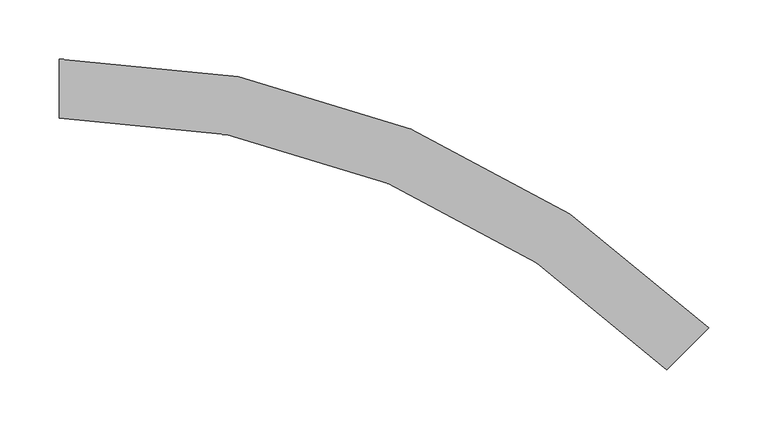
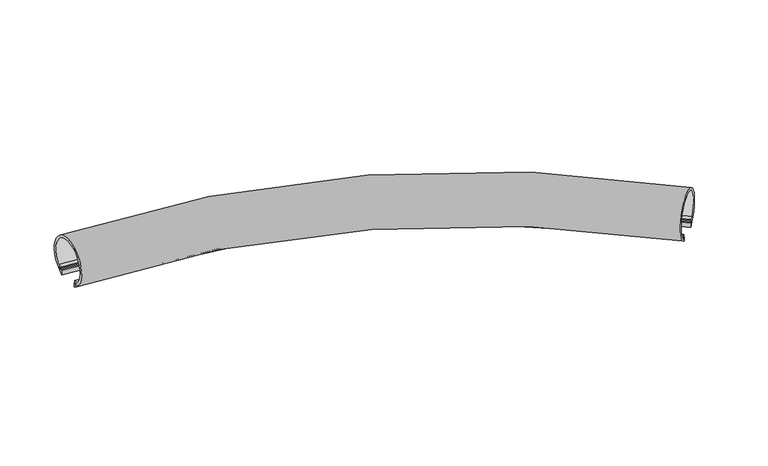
"""IFC4 building model written with IfcOpenShell, lengths in millimetres: light fixture geometry, ARTEMIDE-AoL-System-Curved_Suspended_US : Suspended_Curved 45°-750mm 1118lm 3500K."""

import ifcopenshell
import ifcopenshell.guid

model = None  # the IFC model being written
_history = None  # IfcOwnerHistory: only IFC2X3 demands one
_inside = {}  # id of a spatial element -> (the spatial element, [elements in it])
_under = {}  # id of a project, library or spatial element -> (it, [spatial elements below it])
_declared = {}  # id of a project -> (the project, [libraries it declares])
_typed = {}  # id of a type object -> (the type object, [elements of that type])
_made_of = {}  # id of a material, layer set ... -> (it, [elements and type objects made of it])


def new_model(schema):
    """Start an empty IFC model of exactly this schema.

    Asked for "IFC4X3", IfcOpenShell would pick the latest addendum, in which some entities
    have other attributes; the version numbers below select the first issue.
    IFC2X3 requires an IfcOwnerHistory on every rooted entity: one is made here for all.
    """
    global model, _history
    if schema == "IFC4X3":
        model = ifcopenshell.file(schema_version=(4, 3, 0, 0))
    else:
        model = ifcopenshell.file(schema=schema)
    _inside.clear()
    _under.clear()
    _declared.clear()
    _typed.clear()
    _made_of.clear()
    _history = None
    if model.schema == "IFC2X3":
        org = make("IfcOrganization", Name="unknown")
        user = make(
            "IfcPersonAndOrganization",
            ThePerson=make("IfcPerson", FamilyName="unknown"),
            TheOrganization=org,
        )
        app = make(
            "IfcApplication",
            ApplicationDeveloper=org,
            Version="unknown",
            ApplicationFullName="unknown",
            ApplicationIdentifier="unknown",
        )
        _history = make(
            "IfcOwnerHistory",
            OwningUser=user,
            OwningApplication=app,
            ChangeAction="ADDED",
            CreationDate=0,
        )
    return model


def make(cls, **values):
    """One entity of the class cls with the attributes given. An attribute that is None is left unset."""
    return model.create_entity(
        cls, **{name: value for name, value in values.items() if value is not None}
    )


def rooted(cls, **values):
    """An entity with a GlobalId (a new one), such as an element, a storey or a relation."""
    return make(cls, GlobalId=ifcopenshell.guid.new(), OwnerHistory=_history, **values)


def si_unit(unit_type, name, prefix=None):
    """IfcSIUnit, for example si_unit("LENGTHUNIT", "METRE", prefix="MILLI")."""
    return make("IfcSIUnit", UnitType=unit_type, Prefix=prefix, Name=name)


def assignment(units):
    """IfcUnitAssignment: the units of a project."""
    return None if units is None else make("IfcUnitAssignment", Units=units)


def point(xyz):
    """IfcCartesianPoint."""
    return None if xyz is None else make("IfcCartesianPoint", Coordinates=xyz)


def direction(xyz):
    """IfcDirection."""
    return None if xyz is None else make("IfcDirection", DirectionRatios=xyz)


def frame(location, z_axis=None, x_axis=None):
    """IfcAxis2Placement3D, a coordinate frame: its origin and axes. An axis left out is left unset."""
    return make(
        "IfcAxis2Placement3D",
        Location=point(location),
        Axis=direction(z_axis),
        RefDirection=direction(x_axis),
    )


def origin():
    """The frame at (0, 0, 0) with its axes left unset."""
    return frame((0.0, 0.0, 0.0))


def place(relative_to, where):
    """IfcLocalPlacement: puts the frame where relative to a parent placement (None: the world)."""
    return make(
        "IfcLocalPlacement", PlacementRelTo=relative_to, RelativePlacement=where
    )


def context(
    kind, dimensions, precision=None, world=None, true_north=None, identifier=None
):
    """IfcGeometricRepresentationContext, for example the 3D "Model" context."""
    return make(
        "IfcGeometricRepresentationContext",
        ContextIdentifier=identifier,
        ContextType=kind,
        CoordinateSpaceDimension=dimensions,
        Precision=precision,
        WorldCoordinateSystem=world,
        TrueNorth=true_north,
    )


def project(units=None, contexts=None):
    """IfcProject with its units and contexts."""
    return rooted(
        "IfcProject",
        Name="project",
        RepresentationContexts=contexts,
        UnitsInContext=assignment(units),
    )


def spatial(cls, under=None, at=None, **own):
    """A site, building, storey or space (cls), placed at a placement, below another one or the project."""
    s = rooted(cls, ObjectPlacement=at, **own)
    if under is not None:
        _under.setdefault(under.id(), (under, []))[1].append(s)
    return s


def polyline(points):
    """IfcPolyline through the points."""
    return make("IfcPolyline", Points=[point(p) for p in points])


def circle_curve(where, radius):
    """IfcCircle in the frame where."""
    return make("IfcCircle", Position=where, Radius=radius)


def ellipse_curve(where, semi_axis1, semi_axis2):
    """IfcEllipse in the frame where."""
    return make(
        "IfcEllipse", Position=where, SemiAxis1=semi_axis1, SemiAxis2=semi_axis2
    )


def trimmed(basis, trim1, trim2, sense, master):
    """IfcTrimmedCurve: the piece of a basis curve between two trims."""
    return make(
        "IfcTrimmedCurve",
        BasisCurve=basis,
        Trim1=trim1,
        Trim2=trim2,
        SenseAgreement=sense,
        MasterRepresentation=master,
    )


def shape(context_of_items, identifier, shape_type, items):
    """IfcShapeRepresentation: the items that make up one representation, for example the "Body"."""
    return make(
        "IfcShapeRepresentation",
        ContextOfItems=context_of_items,
        RepresentationIdentifier=identifier,
        RepresentationType=shape_type,
        Items=items,
    )


def source(mapping_origin, context_of_items, identifier, shape_type, items):
    """IfcRepresentationMap: a shape defined once, which mapped items show again and again."""
    return make(
        "IfcRepresentationMap",
        MappingOrigin=mapping_origin,
        MappedRepresentation=shape(context_of_items, identifier, shape_type, items),
    )


def transform(
    local_origin,
    x_axis=None,
    y_axis=None,
    z_axis=None,
    scale=None,
    scale2=None,
    scale3=None,
    uniform=True,
):
    """IfcCartesianTransformationOperator3D, or its non-uniform kind. x_axis, y_axis, z_axis: its Axis1, 2, 3."""
    if uniform:
        return make(
            "IfcCartesianTransformationOperator3D",
            Axis1=direction(x_axis),
            Axis2=direction(y_axis),
            LocalOrigin=point(local_origin),
            Scale=scale,
            Axis3=direction(z_axis),
        )
    return make(
        "IfcCartesianTransformationOperator3DnonUniform",
        Axis1=direction(x_axis),
        Axis2=direction(y_axis),
        LocalOrigin=point(local_origin),
        Scale=scale,
        Axis3=direction(z_axis),
        Scale2=scale2,
        Scale3=scale3,
    )


def mapped(mapping_source, mapping_target):
    """IfcMappedItem: shows the shape of a source again, moved by a transform."""
    return make(
        "IfcMappedItem", MappingSource=mapping_source, MappingTarget=mapping_target
    )


def made_of(thing, what):
    """Note that an element or type object is made of a material, layer set ...; save() writes the relation."""
    if what is not None:
        _made_of.setdefault(what.id(), (what, []))[1].append(thing)
    return thing


def element(
    cls,
    number,
    at=None,
    inside=None,
    cuts=None,
    type_object=None,
    material=None,
    context=None,
    identifier="Body",
    shape_type=None,
    held_by="IfcProductDefinitionShape",
    body=None,
    shapes=None,
    **own,
):
    """One element of the class cls, such as IfcWall. Its Tag is "e" and its number.

    at: its placement. inside: the storey or other place that contains it. cuts: it is an
    opening in that element (IfcRelVoidsElement). A single representation is given by context,
    identifier, shape_type and body (its items); several are given by shapes. held_by: the class
    of the entity that holds the representations. save() writes the other relations.
    """
    e = rooted(cls, Tag="e%d" % number, ObjectPlacement=at, **own)
    if body is not None:
        shapes = [shape(context, identifier, shape_type, body)]
    if shapes is not None:
        e.Representation = make(held_by, Representations=shapes)
    if inside is not None:
        _inside.setdefault(inside.id(), (inside, []))[1].append(e)
    if cuts is not None:
        rooted(
            "IfcRelVoidsElement", RelatingBuildingElement=cuts, RelatedOpeningElement=e
        )
    if type_object is not None:
        _typed.setdefault(type_object.id(), (type_object, []))[1].append(e)
    return made_of(e, material)


def aggregate(whole, parts):
    """IfcRelAggregates: a whole, such as a stair, and the parts it consists of."""
    return rooted("IfcRelAggregates", RelatingObject=whole, RelatedObjects=parts)


def save(model, path):
    """Write the relations noted so far, then the file.

    IfcRelAggregates (storeys below a building ...), IfcRelContainedInSpatialStructure (elements
    in a storey), IfcRelDefinesByType, IfcRelAssociatesMaterial and IfcRelDeclares: one each for
    every whole, place, type object, material and project.
    """
    for whole, parts in _under.values():
        aggregate(whole, parts)
    for where, things in _inside.values():
        rooted(
            "IfcRelContainedInSpatialStructure",
            RelatedElements=things,
            RelatingStructure=where,
        )
    for kind, things in _typed.values():
        rooted("IfcRelDefinesByType", RelatedObjects=things, RelatingType=kind)
    for what, things in _made_of.values():
        rooted("IfcRelAssociatesMaterial", RelatedObjects=things, RelatingMaterial=what)
    for by, libraries in _declared.values():
        rooted("IfcRelDeclares", RelatingContext=by, RelatedDefinitions=libraries)
    model.write(path)


def plane_surface(at):
    """IfcPlane: the flat surface through the origin of the frame at, square to its z axis."""
    return make("IfcPlane", Position=at)


def cylinder_surface(at, radius):
    """IfcCylindricalSurface: all points at the distance radius from the z axis of the frame at."""
    return make("IfcCylindricalSurface", Position=at, Radius=radius)


def revolved_surface(curve, axis_point, axis_direction):
    """IfcSurfaceOfRevolution: the curve turned about the line through axis_point along axis_direction."""
    return make(
        "IfcSurfaceOfRevolution",
        SweptCurve=make("IfcArbitraryOpenProfileDef", ProfileType="CURVE", Curve=curve),
        AxisPosition=make("IfcAxis1Placement", Location=point(axis_point), Axis=direction(axis_direction)),
    )


def advanced_brep(points, edges, surfaces, faces):
    """IfcAdvancedBrep: a solid bounded by faces that lie on surfaces and meet in shared edges.

    An edge is (start, end): straight between two places in points (the first is 0);
    or (start, end, curve); or (start, end, curve, False) where it runs against its curve.
    A face is (place in surfaces, loops), or (place, loops, False) where it looks against
    its surface's normal. A loop lists edges by number (the first is 1), with a minus sign
    where the edge is run from its end to its start. The first loop is the outer one.
    """
    corners = [point(p) for p in points]
    vertices = [make("IfcVertexPoint", VertexGeometry=c) for c in corners]
    made = []
    for start, end, *more in edges:
        made.append(
            make(
                "IfcEdgeCurve",
                EdgeStart=vertices[start],
                EdgeEnd=vertices[end],
                EdgeGeometry=more[0] if more else make("IfcPolyline", Points=[corners[start], corners[end]]),
                SameSense=more[1] if len(more) > 1 else True,
            )
        )
    hull = []
    for where, loops, *sense in faces:
        bounds = []
        for j, loop in enumerate(loops):
            ring = [make("IfcOrientedEdge", EdgeElement=made[abs(k) - 1], Orientation=k > 0) for k in loop]
            bounds.append(
                make(
                    "IfcFaceOuterBound" if j == 0 else "IfcFaceBound",
                    Bound=make("IfcEdgeLoop", EdgeList=ring),
                    Orientation=True,
                )
            )
        hull.append(make("IfcAdvancedFace", Bounds=bounds, FaceSurface=surfaces[where], SameSense=sense[0] if sense else True))
    return make("IfcAdvancedBrep", Outer=make("IfcClosedShell", CfsFaces=hull))


def light_fixture_747e397c(model_context):
    return source(origin(), model_context, "Body", "AdvancedBrep", [
        advanced_brep(
        [(499.4162398, -175.4873356, 502.6676119), (499.4162398, -175.4873356, 507.259212), (501.0111252, -173.6526299, 507.259212), (501.0111252, -173.6526299, 509.244074), (500.3550661, -174.4073395, 509.244074), (500.3550661, -174.4073395, 510.744074), (483.7334774, -193.5282901, 510.744074), (483.7334774, -193.5282901, 509.244074), (483.0774183, -194.2829997, 509.244074), (483.0774183, -194.2829997, 507.259212), (484.6723037, -192.448294, 507.259212), (484.6723037, -192.448294, 502.6676119), (51.5335196, -13.0363353, 502.6676119), (53.101191, 9.3824107, 502.6676119), (53.101191, 9.3824107, 507.259212), (53.2707696, 11.8074977, 507.259212), (53.2707696, 11.8074977, 509.244074), (53.2010132, 10.8099337, 509.244074), (53.2010132, 10.8099337, 510.744074), (51.4336975, -14.4638583, 510.744074), (51.4336975, -14.4638583, 509.244074), (51.363941, -15.4614223, 509.244074), (51.363941, -15.4614223, 507.259212), (51.5335196, -13.0363353, 507.259212)],
        [
            (0, 1),
            (1, 2),
            (2, 3),
            (3, 4),
            (4, 5),
            (5, 6),
            (6, 7),
            (7, 8),
            (8, 9),
            (9, 10),
            (10, 11),
            (11, 0, circle_curve(frame((492.0442717, -183.9678148, 525.0), z_axis=(0.7547095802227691, -0.6560590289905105, 0.0), x_axis=(0.6560590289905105, 0.7547095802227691, 0.0)), 25.0)),
            (11, 12, circle_curve(frame((0.0, -750.0, 502.6676119), z_axis=(0.0, 0.0, 1.0), x_axis=(0.0, 1.0, 0.0)), 738.7632549)),
            (12, 13, circle_curve(frame((52.3173553, -1.8269623, 525.0), z_axis=(0.9975640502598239, -0.06975647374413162, 0.0), x_axis=(0.06975647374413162, 0.9975640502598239, 0.0)), 25.0)),
            (13, 0, circle_curve(frame((0.0, -750.0, 502.6676119), z_axis=(0.0, 0.0, -1.0), x_axis=(0.0, 1.0, 0.0)), 761.2367451)),
            (13, 14),
            (14, 1, circle_curve(frame((0.0, -750.0, 507.259212), z_axis=(0.0, 0.0, -1.0), x_axis=(0.0, 1.0, 0.0)), 761.2367451)),
            (14, 15),
            (15, 2, circle_curve(frame((0.0, -750.0, 507.259212), z_axis=(0.0, 0.0, -1.0), x_axis=(0.0, 1.0, 0.0)), 763.667754)),
            (15, 16),
            (16, 3, circle_curve(frame((0.0, -750.0, 509.244074), z_axis=(0.0, 0.0, -1.0), x_axis=(0.0, 1.0, 0.0)), 763.667754)),
            (16, 17),
            (17, 4, circle_curve(frame((0.0, -750.0, 509.244074), z_axis=(0.0, 0.0, -1.0), x_axis=(0.0, 1.0, 0.0)), 762.667754)),
            (17, 18),
            (18, 5, circle_curve(frame((0.0, -750.0, 510.744074), z_axis=(0.0, 0.0, -1.0), x_axis=(0.0, 1.0, 0.0)), 762.667754)),
            (18, 19),
            (19, 6, circle_curve(frame((0.0, -750.0, 510.744074), z_axis=(0.0, 0.0, -1.0), x_axis=(0.0, 1.0, 0.0)), 737.332246)),
            (19, 20),
            (20, 7, circle_curve(frame((0.0, -750.0, 509.244074), z_axis=(0.0, 0.0, -1.0), x_axis=(0.0, 1.0, 0.0)), 737.332246)),
            (20, 21),
            (21, 8, circle_curve(frame((0.0, -750.0, 509.244074), z_axis=(0.0, 0.0, -1.0), x_axis=(0.0, 1.0, 0.0)), 736.332246)),
            (21, 22),
            (22, 9, circle_curve(frame((0.0, -750.0, 507.259212), z_axis=(0.0, 0.0, -1.0), x_axis=(0.0, 1.0, 0.0)), 736.332246)),
            (22, 23),
            (23, 10, circle_curve(frame((0.0, -750.0, 507.259212), z_axis=(0.0, 0.0, -1.0), x_axis=(0.0, 1.0, 0.0)), 738.7632549)),
            (23, 12),
        ],
        [
            plane_surface(frame((492.0442717, -183.9678148, 500.0), z_axis=(0.7547095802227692, -0.6560590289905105, 0.0), x_axis=(0.0, 0.0, 1.0))),
            revolved_surface(trimmed(ellipse_curve(frame((0.0, 0.0, 525.0), z_axis=(-1.0, 0.0, 0.0), x_axis=(0.0, 1.0, 0.0)), 25.0, 25.0), [point((0.0, 11.2367451, 502.6676119))], [point((0.0, -11.2367451, 502.6676119))], True, "CARTESIAN"), (0.0, -750.0, 500.0), (0.0, 0.0, -1.0)),
            cylinder_surface(frame((0.0, -750.0, 500.0), z_axis=(0.0, 0.0, -1.0), x_axis=(0.0, 1.0, 0.0)), 761.2367451),
            plane_surface(frame((0.0, -750.0, 507.259212), z_axis=(0.0, 0.0, -1.0), x_axis=(0.0, 1.0, 0.0))),
            cylinder_surface(frame((0.0, -750.0, 500.0), z_axis=(0.0, 0.0, -1.0), x_axis=(0.0, 1.0, 0.0)), 763.667754),
            plane_surface(frame((0.0, -750.0, 509.244074), z_axis=(0.0, 0.0, 1.0), x_axis=(0.0, 1.0, 0.0))),
            cylinder_surface(frame((0.0, -750.0, 500.0), z_axis=(0.0, 0.0, -1.0), x_axis=(0.0, 1.0, 0.0)), 762.667754),
            plane_surface(frame((0.0, -750.0, 510.744074), z_axis=(0.0, 0.0, 1.0), x_axis=(0.0, 1.0, 0.0))),
            revolved_surface(polyline([(0.0, -12.667753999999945, 509.244074), (0.0, -12.667753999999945, 510.744074)]), (0.0, -750.0, 500.0), (0.0, 0.0, -1.0)),
            revolved_surface(polyline([(0.0, -13.667753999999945, 507.259212), (0.0, -13.667753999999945, 509.244074)]), (0.0, -750.0, 500.0), (0.0, 0.0, -1.0)),
            revolved_surface(polyline([(0.0, -11.236745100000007, 502.6676119), (0.0, -11.236745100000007, 507.259212)]), (0.0, -750.0, 500.0), (0.0, 0.0, -1.0)),
            plane_surface(frame((52.3173553, -1.8269623, 500.0), z_axis=(-0.997564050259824, 0.06975647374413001, 0.0), x_axis=(0.0, 0.0, 1.0))),
        ],
        [
            (0, [[1, 2, 3, 4, 5, 6, 7, 8, 9, 10, 11, 12]]),
            (1, [[-12, 13, 14, 15]]),
            (2, [[-1, -15, 16, 17]]),
            (3, [[-2, -17, 18, 19]]),
            (4, [[-3, -19, 20, 21]]),
            (5, [[-4, -21, 22, 23]]),
            (6, [[-5, -23, 24, 25]]),
            (7, [[-6, -25, 26, 27]]),
            (8, [[-7, -27, 28, 29]]),
            (5, [[-8, -29, 30, 31]]),
            (9, [[-9, -31, 32, 33]]),
            (3, [[-10, -33, 34, 35]]),
            (10, [[-11, -35, 36, -13]]),
            (11, [[-14, -36, -34, -32, -30, -28, -26, -24, -22, -20, -18, -16]]),
        ],
    ),
        advanced_brep(
        [(0.0, -11.2367451, 502.6676119), (0.0, 11.2367451, 502.6676119), (0.0, 11.2367451, 507.259212), (0.0, 13.667754, 507.259212), (0.0, 13.667754, 505.8288843), (0.0, 15.617754, 507.2440748), (0.0, 15.617754, 509.244074), (0.0, 12.667754, 509.244074), (0.0, 12.667754, 510.744074), (0.0, 17.2779794, 510.744074), (0.0, -17.2779794, 510.744074), (0.0, -12.667754, 510.744074), (0.0, -12.667754, 509.244074), (0.0, -15.617754, 509.244074), (0.0, -15.617754, 507.2440748), (0.0, -13.667754, 505.8288843), (0.0, -13.667754, 507.259212), (0.0, -11.2367451, 507.259212), (522.3845072, -227.6154928, 502.6676119), (522.3845072, -227.6154928, 507.259212), (520.6655244, -229.3344756, 507.259212), (520.6655244, -229.3344756, 505.8288843), (519.2866661, -230.7133339, 507.2440748), (519.2866661, -230.7133339, 509.244074), (521.3726311, -228.6273689, 509.244074), (521.3726311, -228.6273689, 510.744074), (518.1127095, -231.8872905, 510.744074), (542.5474623, -207.4525377, 510.744074), (539.2875406, -210.7124594, 510.744074), (539.2875406, -210.7124594, 509.244074), (541.3735056, -208.6264943, 509.244074), (541.3735056, -208.6264943, 507.2440748), (539.9946474, -210.0053526, 505.8288843), (539.9946474, -210.0053526, 507.259212), (538.2756646, -211.7243354, 507.259212), (538.2756646, -211.7243354, 502.6676119)],
        [
            (0, 1, circle_curve(frame((0.0, 0.0, 525.0), z_axis=(-1.0, 0.0, 0.0), x_axis=(0.0, 1.0, 0.0)), 25.0)),
            (1, 2),
            (2, 3),
            (3, 4),
            (4, 5),
            (5, 6),
            (6, 7),
            (7, 8),
            (8, 9),
            (9, 10, circle_curve(frame((0.0, 0.0, 525.0), z_axis=(1.0, 0.0, 0.0), x_axis=(0.0, 1.0, 0.0)), 22.4)),
            (10, 11),
            (11, 12),
            (12, 13),
            (13, 14),
            (14, 15),
            (15, 16),
            (16, 17),
            (17, 0),
            (18, 19),
            (19, 20),
            (20, 21),
            (21, 22),
            (22, 23),
            (23, 24),
            (24, 25),
            (25, 26),
            (26, 27, circle_curve(frame((530.3300859, -219.6699141, 525.0), z_axis=(-0.7071067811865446, 0.7071067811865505, 0.0), x_axis=(0.7071067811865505, 0.7071067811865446, 0.0)), 22.4)),
            (27, 28),
            (28, 29),
            (29, 30),
            (30, 31),
            (31, 32),
            (32, 33),
            (33, 34),
            (34, 35),
            (35, 18, circle_curve(frame((530.3300859, -219.6699141, 525.0), z_axis=(0.7071067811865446, -0.7071067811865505, 0.0), x_axis=(0.7071067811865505, 0.7071067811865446, 0.0)), 25.0)),
            (35, 1, circle_curve(frame((0.0, -750.0, 502.6676119), z_axis=(0.0, 0.0, 1.0), x_axis=(0.0, 1.0, 0.0)), 761.2367451)),
            (0, 18, circle_curve(frame((0.0, -750.0, 502.6676119), z_axis=(0.0, 0.0, -1.0), x_axis=(0.0, 1.0, 0.0)), 738.7632549)),
            (34, 2, circle_curve(frame((0.0, -750.0, 507.259212), z_axis=(0.0, 0.0, 1.0), x_axis=(0.0, 1.0, 0.0)), 761.2367451)),
            (33, 3, circle_curve(frame((0.0, -750.0, 507.259212), z_axis=(0.0, 0.0, 1.0), x_axis=(0.0, 1.0, 0.0)), 763.667754)),
            (32, 4, circle_curve(frame((0.0, -750.0, 505.8288843), z_axis=(0.0, 0.0, 1.0), x_axis=(0.0, 1.0, 0.0)), 763.667754)),
            (31, 5, circle_curve(frame((0.0, -750.0, 507.2440748), z_axis=(0.0, 0.0, 1.0), x_axis=(0.0, 1.0, 0.0)), 765.617754)),
            (30, 6, circle_curve(frame((0.0, -750.0, 509.244074), z_axis=(0.0, 0.0, 1.0), x_axis=(0.0, 1.0, 0.0)), 765.617754)),
            (29, 7, circle_curve(frame((0.0, -750.0, 509.244074), z_axis=(0.0, 0.0, 1.0), x_axis=(0.0, 1.0, 0.0)), 762.667754)),
            (28, 8, circle_curve(frame((0.0, -750.0, 510.744074), z_axis=(0.0, 0.0, 1.0), x_axis=(0.0, 1.0, 0.0)), 762.667754)),
            (27, 9, circle_curve(frame((0.0, -750.0, 510.744074), z_axis=(0.0, 0.0, 1.0), x_axis=(0.0, 1.0, 0.0)), 767.2779794)),
            (25, 11, circle_curve(frame((0.0, -750.0, 510.744074), z_axis=(0.0, 0.0, 1.0), x_axis=(0.0, 1.0, 0.0)), 737.332246)),
            (10, 26, circle_curve(frame((0.0, -750.0, 510.744074), z_axis=(0.0, 0.0, -1.0), x_axis=(0.0, 1.0, 0.0)), 732.7220206)),
            (24, 12, circle_curve(frame((0.0, -750.0, 509.244074), z_axis=(0.0, 0.0, 1.0), x_axis=(0.0, 1.0, 0.0)), 737.332246)),
            (23, 13, circle_curve(frame((0.0, -750.0, 509.244074), z_axis=(0.0, 0.0, 1.0), x_axis=(0.0, 1.0, 0.0)), 734.382246)),
            (22, 14, circle_curve(frame((0.0, -750.0, 507.2440748), z_axis=(0.0, 0.0, 1.0), x_axis=(0.0, 1.0, 0.0)), 734.382246)),
            (21, 15, circle_curve(frame((0.0, -750.0, 505.8288843), z_axis=(0.0, 0.0, 1.0), x_axis=(0.0, 1.0, 0.0)), 736.332246)),
            (20, 16, circle_curve(frame((0.0, -750.0, 507.259212), z_axis=(0.0, 0.0, 1.0), x_axis=(0.0, 1.0, 0.0)), 736.332246)),
            (19, 17, circle_curve(frame((0.0, -750.0, 507.259212), z_axis=(0.0, 0.0, 1.0), x_axis=(0.0, 1.0, 0.0)), 738.7632549)),
        ],
        [
            plane_surface(frame((0.0, 0.0, 500.0), z_axis=(-1.0, 0.0, 0.0), x_axis=(0.0, 0.0, 1.0))),
            plane_surface(frame((530.3300859, -219.6699141, 500.0), z_axis=(0.7071067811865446, -0.7071067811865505, 0.0), x_axis=(0.0, 0.0, 1.0))),
            revolved_surface(trimmed(ellipse_curve(frame((0.0, 0.0, 525.0), z_axis=(-1.0, 0.0, 0.0), x_axis=(0.0, 1.0, 0.0)), 25.0, 25.0), [point((0.0, -11.2367451, 502.6676119))], [point((0.0, 11.2367451, 502.6676119))], True, "CARTESIAN"), (0.0, -750.0, 500.0), (0.0, 0.0, -1.0)),
            revolved_surface(polyline([(0.0, 11.236745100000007, 502.6676119), (0.0, 11.236745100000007, 507.259212)]), (0.0, -750.0, 500.0), (0.0, 0.0, -1.0)),
            plane_surface(frame((0.0, -750.0, 507.259212), z_axis=(0.0, 0.0, 1.0), x_axis=(0.0, 1.0, 0.0))),
            cylinder_surface(frame((0.0, -750.0, 500.0), z_axis=(0.0, 0.0, -1.0), x_axis=(0.0, 1.0, 0.0)), 763.667754),
            revolved_surface(polyline([(0.0, 13.667754, 505.8288843), (0.0, 15.617754, 507.2440748)]), (0.0, -750.0, 500.0), (0.0, 0.0, -1.0)),
            revolved_surface(polyline([(0.0, 15.61775399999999, 507.2440748), (0.0, 15.61775399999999, 509.244074)]), (0.0, -750.0, 500.0), (0.0, 0.0, -1.0)),
            plane_surface(frame((0.0, -750.0, 509.244074), z_axis=(0.0, 0.0, -1.0), x_axis=(0.0, 1.0, 0.0))),
            revolved_surface(polyline([(0.0, 12.667753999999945, 509.244074), (0.0, 12.667753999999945, 510.744074)]), (0.0, -750.0, 500.0), (0.0, 0.0, -1.0)),
            plane_surface(frame((0.0, -750.0, 510.744074), z_axis=(0.0, 0.0, 1.0), x_axis=(0.0, 1.0, 0.0))),
            cylinder_surface(frame((0.0, -750.0, 500.0), z_axis=(0.0, 0.0, -1.0), x_axis=(0.0, 1.0, 0.0)), 737.332246),
            cylinder_surface(frame((0.0, -750.0, 500.0), z_axis=(0.0, 0.0, -1.0), x_axis=(0.0, 1.0, 0.0)), 734.382246),
            revolved_surface(polyline([(0.0, -15.617754, 507.2440748), (0.0, -13.667754, 505.8288843)]), (0.0, -750.0, 500.0), (0.0, 0.0, -1.0)),
            revolved_surface(polyline([(0.0, -13.667753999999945, 505.8288843), (0.0, -13.667753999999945, 507.259212)]), (0.0, -750.0, 500.0), (0.0, 0.0, -1.0)),
            cylinder_surface(frame((0.0, -750.0, 500.0), z_axis=(0.0, 0.0, -1.0), x_axis=(0.0, 1.0, 0.0)), 738.7632549),
            revolved_surface(trimmed(ellipse_curve(frame((0.0, 0.0, 525.0), z_axis=(1.0, 0.0, 0.0), x_axis=(0.0, 1.0, 0.0)), 22.4, 22.4), [point((0.0, 17.2779794, 510.744074))], [point((0.0, -17.2779794, 510.744074))], True, "CARTESIAN"), (0.0, -750.0, 500.0), (0.0, 0.0, -1.0)),
        ],
        [
            (0, [[1, 2, 3, 4, 5, 6, 7, 8, 9, 10, 11, 12, 13, 14, 15, 16, 17, 18]]),
            (1, [[19, 20, 21, 22, 23, 24, 25, 26, 27, 28, 29, 30, 31, 32, 33, 34, 35, 36]]),
            (2, [[37, -1, 38, -36]]),
            (3, [[39, -2, -37, -35]]),
            (4, [[40, -3, -39, -34]]),
            (5, [[41, -4, -40, -33]]),
            (6, [[42, -5, -41, -32]]),
            (7, [[43, -6, -42, -31]]),
            (8, [[44, -7, -43, -30]]),
            (9, [[45, -8, -44, -29]]),
            (10, [[46, -9, -45, -28]]),
            (10, [[47, -11, 48, -26]]),
            (11, [[49, -12, -47, -25]]),
            (8, [[50, -13, -49, -24]]),
            (12, [[51, -14, -50, -23]]),
            (13, [[52, -15, -51, -22]]),
            (14, [[53, -16, -52, -21]]),
            (4, [[54, -17, -53, -20]]),
            (15, [[-38, -18, -54, -19]]),
            (16, [[-48, -10, -46, -27]]),
        ],
    ),
    ])


if __name__ == "__main__":
    model = new_model("IFC4")
    model_context = context("Model", 3, world=origin())
    ifc_project = project(units=[si_unit("LENGTHUNIT", "METRE", prefix="MILLI")], contexts=[model_context])
    site = spatial("IfcSite", under=ifc_project)
    building = spatial("IfcBuilding", under=site)
    placement = place(None, origin())
    light_fixture_shape = light_fixture_747e397c(model_context)
    element("IfcLightFixture", 1, ObjectType="ARTEMIDE-AoL-System-Curved_Suspended_US : Suspended_Curved 45°-750mm 1118lm 3500K", at=placement, inside=building, context=model_context, shape_type="MappedRepresentation", body=[
        mapped(light_fixture_shape, transform((0.0, 0.0, 0.0), x_axis=(1.0, 0.0, 0.0), y_axis=(0.0, 1.0, 0.0), z_axis=(0.0, 0.0, 1.0))),
    ])
    save(model, "model.ifc")
